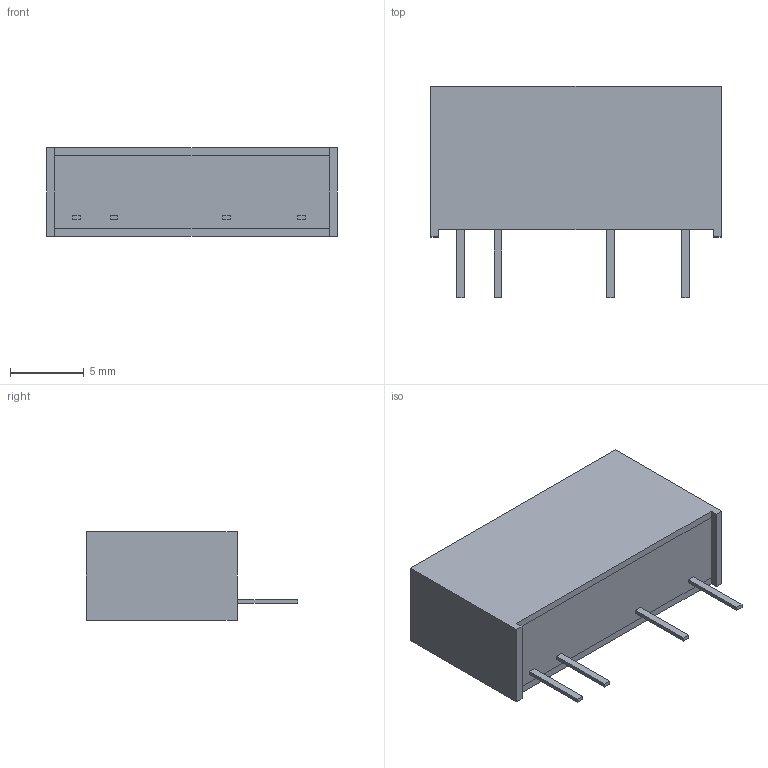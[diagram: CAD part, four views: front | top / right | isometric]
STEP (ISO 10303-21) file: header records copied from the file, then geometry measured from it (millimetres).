
FILE_DESCRIPTION(('FreeCAD Model'),'2;1');
FILE_NAME('X:/Application Engineering/4 Documentation/3 Users/1 MaS/3D Projekt/RK_3D_20190725.step','2019-07-25T10:27:45',('Author'),(''), 'Open CASCADE STEP processor 7.3','FreeCAD','Unknown');
FILE_SCHEMA(('AUTOMOTIVE_DESIGN { 1 0 10303 214 1 1 1 1 }'));
Length unit declared in the file: millimetre
Products named in the file (6): RK_pin7(+Vout); RK_pin2(-Vin); RK_pin5(-Vout); RK_case; RK_potting; RK_pin1(+Vin)
Bounding box: 19.65 x 14.3 x 6 mm (x, y, z)
Volume: 1146 mm3; surface area: 1837.2 mm2
Topology: 6 solids, 6 shells, 142 faces, 357 edges, 238 vertices
Faces by surface type: plane 130, cylinder 12
Entity records: 4296 total; most frequent: CARTESIAN_POINT 738, ORIENTED_EDGE 714, DIRECTION 667, EDGE_CURVE 357, LINE 333, VECTOR 333, VERTEX_POINT 238, AXIS2_PLACEMENT_3D 167
